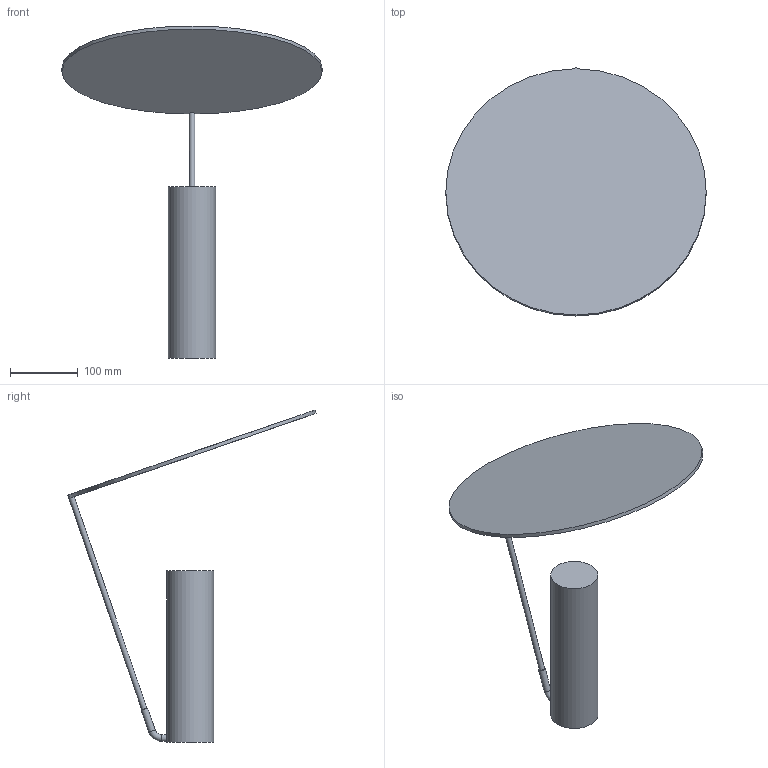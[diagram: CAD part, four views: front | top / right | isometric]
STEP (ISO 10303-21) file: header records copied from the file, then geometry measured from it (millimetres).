
FILE_DESCRIPTION(/* description */ (''),/* implementation_level */ '2;1');
FILE_NAME(/* name */ 'Blue Skies - Simplified 3D.step',/* time_stamp */ '2024-04-02T11:33:24+01:00',/* author */ (''),/* organization */ (''),/* preprocessor_version */ 'ST-DEVELOPER v20',/* originating_system */ 'Autodesk Translation Framework v12.20.1.177',/* authorisation */ '');
FILE_SCHEMA (('AUTOMOTIVE_DESIGN { 1 0 10303 214 3 1 1 }'));
Length unit declared in the file: millimetre
Products named in the file (1): Blue Skies - Simplified 3D
Bounding box: 384.99 x 367.09 x 490.87 mm (x, y, z)
Volume: 1588783.2 mm3; surface area: 312467 mm2
Topology: 1 solids, 1 shells, 11 faces, 22 edges, 15 vertices
Faces by surface type: cylinder 5, plane 5, torus 1
Full cylindrical faces by diameter (mm): 8 x1, 10 x2, 70 x1
Entity records: 361 total; most frequent: CARTESIAN_POINT 83, DIRECTION 58, ORIENTED_EDGE 44, AXIS2_PLACEMENT_3D 26, EDGE_CURVE 22, VERTEX_POINT 15, CIRCLE 14, EDGE_LOOP 13
